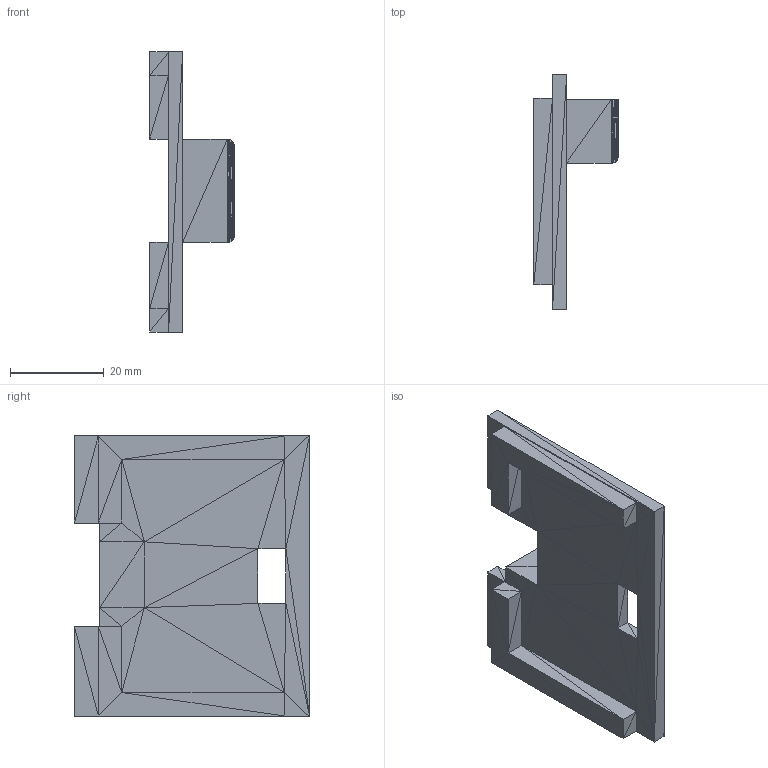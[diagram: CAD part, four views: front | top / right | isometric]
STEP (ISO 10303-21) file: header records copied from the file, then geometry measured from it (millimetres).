
FILE_DESCRIPTION((''),'2;1');
FILE_NAME('Back part', '2026-03-16T15:28:05', (''), (''), 'ImageToStl.com STEP Converter','', '');
FILE_SCHEMA(('AUTOMOTIVE_DESIGN_CC2'));
Length unit declared in the file: metre
Products named in the file (1): product0
Bounding box: 18 x 50.1 x 60 mm (x, y, z)
Surface area: 8306.2 mm2 (no closed solid volume)
Topology: 0 solids, 228 shells, 228 faces, 684 edges, 114 vertices
Faces by surface type: plane 228
Entity records: 5279 total; most frequent: DIRECTION 1142, ORIENTED_EDGE 684, EDGE_CURVE 684, LINE 684, VECTOR 684, AXIS2_PLACEMENT_3D 229, FACE_SURFACE 228, PLANE 228
